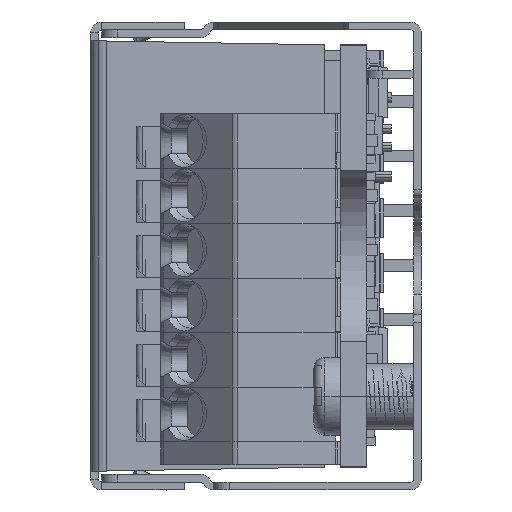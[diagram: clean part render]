
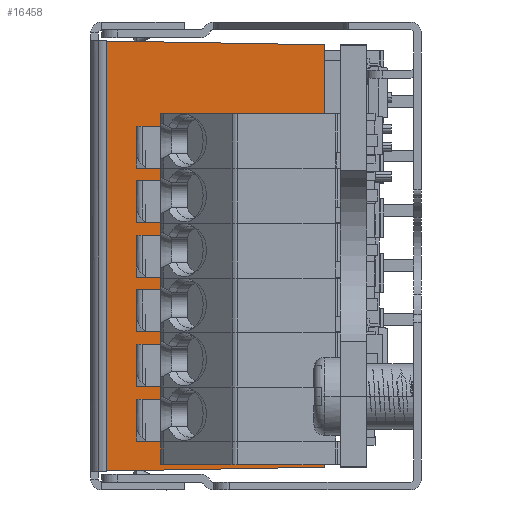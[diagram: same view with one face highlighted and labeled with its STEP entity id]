
A CAD part, left-side view. The second image highlights one B-rep face of the part: STEP entity #16458.
In plain terms, the highlighted planar face has unit normal (-1, 0, 0).
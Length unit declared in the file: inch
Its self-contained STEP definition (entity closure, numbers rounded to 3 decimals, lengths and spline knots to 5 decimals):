
#5984=CARTESIAN_POINT('',(-4.36516,-0.01968,
-0.54262));
#6015=DIRECTION('',(0.,0.,-1.));
#6016=VECTOR('',#6015,1.08524);
#6017=CARTESIAN_POINT('',(-4.36516,-0.01968,
0.54262));
#6018=LINE('',#6017,#6016);
#6022=CARTESIAN_POINT('',(-4.36516,-0.01968,
0.54262));
#8590=DIRECTION('',(0.,-1.,-0.017));
#8591=VECTOR('',#8590,0.55127);
#8592=CARTESIAN_POINT('',(-4.36516,-0.01968,
0.54262));
#8593=LINE('',#8592,#8591);
#8597=DIRECTION('',(0.,0.,-1.));
#8598=VECTOR('',#8597,1.066);
#8599=CARTESIAN_POINT('',(-4.36516,-0.57087,
0.533));
#8600=LINE('',#8599,#8598);
#8604=DIRECTION('',(0.,1.,-0.017));
#8605=VECTOR('',#8604,0.55127);
#8606=CARTESIAN_POINT('',(-4.36516,-0.57087,
-0.533));
#8607=LINE('',#8606,#8605);
#11277=VERTEX_POINT('',#5984);
#11280=VERTEX_POINT('',#6022);
#11494=CARTESIAN_POINT('',(-4.36516,-0.57087,
0.533));
#11495=VERTEX_POINT('',#11494);
#11496=CARTESIAN_POINT('',(-4.36516,-0.57087,
-0.533));
#11497=VERTEX_POINT('',#11496);
#16445=CARTESIAN_POINT('',(-4.36516,-0.57087,
0.54331));
#16446=DIRECTION('',(-1.,0.,0.));
#16447=DIRECTION('',(0.,1.,0.));
#16448=AXIS2_PLACEMENT_3D('',#16445,#16446,#16447);
#16449=PLANE('',#16448);
#16450=ORIENTED_EDGE('',*,*,#16436,.T.);
#16452=ORIENTED_EDGE('',*,*,#16451,.T.);
#16454=ORIENTED_EDGE('',*,*,#16453,.T.);
#16455=ORIENTED_EDGE('',*,*,#12095,.F.);
#16456=EDGE_LOOP('',(#16450,#16452,#16454,#16455));
#16457=FACE_OUTER_BOUND('',#16456,.F.);
#16458=ADVANCED_FACE('',(#16457),#16449,.T.);
#12095=EDGE_CURVE('',#11280,#11277,#6018,.T.);
#16436=EDGE_CURVE('',#11280,#11495,#8593,.T.);
#16451=EDGE_CURVE('',#11495,#11497,#8600,.T.);
#16453=EDGE_CURVE('',#11497,#11277,#8607,.T.);
